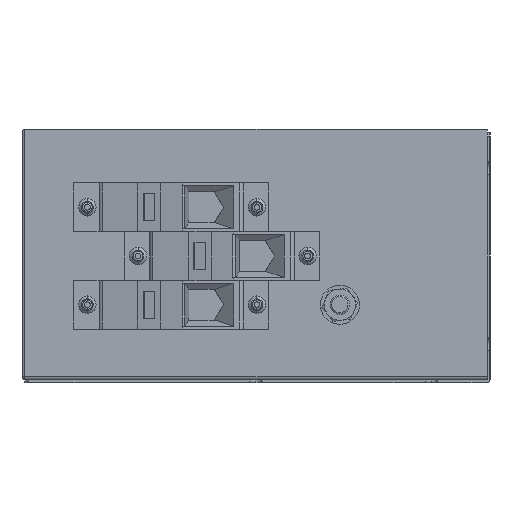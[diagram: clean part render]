
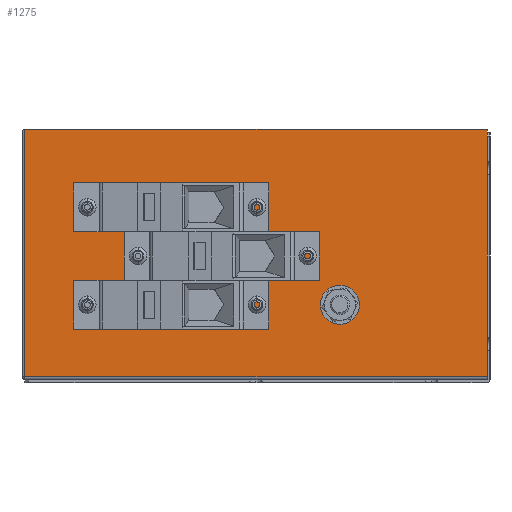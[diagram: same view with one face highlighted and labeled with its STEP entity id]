
A CAD part, left-side view. The second image highlights one B-rep face of the part: STEP entity #1275.
In plain terms, the highlighted planar face has unit normal (-1, 0, 0).
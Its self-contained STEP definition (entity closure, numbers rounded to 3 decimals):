
#146 = AXIS2_PLACEMENT_3D ( 'NONE', #1826, #7199, #9860 ) ;
#303 = ORIENTED_EDGE ( 'NONE', *, *, #2499, .T. ) ;
#311 = VERTEX_POINT ( 'NONE', #5593 ) ;
#633 = EDGE_CURVE ( 'NONE', #5802, #11120, #5743, .T. ) ;
#1041 = CARTESIAN_POINT ( 'NONE',  ( 19., 77., -88.5 ) ) ;
#1151 = CARTESIAN_POINT ( 'NONE',  ( 19., 180.5, -61.25 ) ) ;
#1193 = ORIENTED_EDGE ( 'NONE', *, *, #633, .T. ) ;
#1224 = FACE_BOUND ( 'NONE', #3542, .T. ) ;
#1234 = VECTOR ( 'NONE', #2579, 1000. ) ;
#1249 = DIRECTION ( 'NONE',  ( 0., -1., 0. ) ) ;
#1275 = ADVANCED_FACE ( 'NONE', ( #7831, #1224, #11468, #5450, #6021 ), #10774, .F. ) ;
#1365 = CARTESIAN_POINT ( 'NONE',  ( 19., 240., -125.5 ) ) ;
#1486 = LINE ( 'NONE', #1365, #6264 ) ;
#1513 = VERTEX_POINT ( 'NONE', #6058 ) ;
#1639 = CARTESIAN_POINT ( 'NONE',  ( 19., 206.5, -38.5 ) ) ;
#1795 = CARTESIAN_POINT ( 'NONE',  ( 19., 206.5, -36.25 ) ) ;
#1826 = CARTESIAN_POINT ( 'NONE',  ( 19., 180.5, -63.5 ) ) ;
#1995 = CARTESIAN_POINT ( 'NONE',  ( 19., 1.5, 1.5 ) ) ;
#2019 = CARTESIAN_POINT ( 'NONE',  ( 19., 206.5, -90.75 ) ) ;
#2193 = EDGE_CURVE ( 'NONE', #1513, #8739, #1486, .T. ) ;
#2241 = ORIENTED_EDGE ( 'NONE', *, *, #3141, .T. ) ;
#2439 = CIRCLE ( 'NONE', #5647, 2.25 ) ;
#2499 = EDGE_CURVE ( 'NONE', #11120, #5802, #4153, .T. ) ;
#2514 = ORIENTED_EDGE ( 'NONE', *, *, #4195, .T. ) ;
#2576 = DIRECTION ( 'NONE',  ( 1., 0., 0. ) ) ;
#2579 = DIRECTION ( 'NONE',  ( 0., 0., 1. ) ) ;
#2692 = CARTESIAN_POINT ( 'NONE',  ( 19., 206.5, -86.25 ) ) ;
#2724 = CARTESIAN_POINT ( 'NONE',  ( 19., 206.5, -88.5 ) ) ;
#2764 = AXIS2_PLACEMENT_3D ( 'NONE', #4896, #8444, #3047 ) ;
#3038 = CARTESIAN_POINT ( 'NONE',  ( 19., 77., -93.75 ) ) ;
#3047 = DIRECTION ( 'NONE',  ( 0., 0., -1. ) ) ;
#3141 = EDGE_CURVE ( 'NONE', #10778, #7141, #4215, .T. ) ;
#3368 = VERTEX_POINT ( 'NONE', #3976 ) ;
#3542 = EDGE_LOOP ( 'NONE', ( #5622, #6652 ) ) ;
#3546 = CARTESIAN_POINT ( 'NONE',  ( 19., 238.5, 1.5 ) ) ;
#3555 = VERTEX_POINT ( 'NONE', #4948 ) ;
#3663 = DIRECTION ( 'NONE',  ( 0., 0., -1. ) ) ;
#3884 = CIRCLE ( 'NONE', #9086, 2.25 ) ;
#3976 = CARTESIAN_POINT ( 'NONE',  ( 19., 1.5, 1.5 ) ) ;
#4153 = CIRCLE ( 'NONE', #7920, 2.25 ) ;
#4195 = EDGE_CURVE ( 'NONE', #3555, #3368, #6167, .T. ) ;
#4204 = CARTESIAN_POINT ( 'NONE',  ( 19., 77., -83.25 ) ) ;
#4215 = CIRCLE ( 'NONE', #4698, 5.25 ) ;
#4486 = DIRECTION ( 'NONE',  ( 0., 0., -1. ) ) ;
#4512 = EDGE_CURVE ( 'NONE', #11540, #3368, #8688, .T. ) ;
#4573 = DIRECTION ( 'NONE',  ( 0., 0., -1. ) ) ;
#4698 = AXIS2_PLACEMENT_3D ( 'NONE', #5273, #9861, #4486 ) ;
#4839 = CIRCLE ( 'NONE', #2764, 2.25 ) ;
#4896 = CARTESIAN_POINT ( 'NONE',  ( 19., 180.5, -63.5 ) ) ;
#4939 = VECTOR ( 'NONE', #4573, 1000. ) ;
#4948 = CARTESIAN_POINT ( 'NONE',  ( 19., 1.5, 0. ) ) ;
#5214 = CARTESIAN_POINT ( 'NONE',  ( 19., 206.5, -88.5 ) ) ;
#5273 = CARTESIAN_POINT ( 'NONE',  ( 19., 77., -88.5 ) ) ;
#5304 = ORIENTED_EDGE ( 'NONE', *, *, #7389, .T. ) ;
#5447 = CARTESIAN_POINT ( 'NONE',  ( 19., 206.5, -38.5 ) ) ;
#5448 = CARTESIAN_POINT ( 'NONE',  ( 19., 238.5, 1.5 ) ) ;
#5450 = FACE_BOUND ( 'NONE', #5824, .T. ) ;
#5540 = DIRECTION ( 'NONE',  ( 0., -1., 0. ) ) ;
#5593 = CARTESIAN_POINT ( 'NONE',  ( 19., 206.5, -40.75 ) ) ;
#5622 = ORIENTED_EDGE ( 'NONE', *, *, #6616, .T. ) ;
#5647 = AXIS2_PLACEMENT_3D ( 'NONE', #1639, #2576, #9645 ) ;
#5649 = EDGE_CURVE ( 'NONE', #311, #7622, #3884, .T. ) ;
#5652 = EDGE_CURVE ( 'NONE', #7141, #10778, #10772, .T. ) ;
#5743 = CIRCLE ( 'NONE', #6179, 2.25 ) ;
#5802 = VERTEX_POINT ( 'NONE', #2019 ) ;
#5822 = EDGE_LOOP ( 'NONE', ( #11001, #2241 ) ) ;
#5824 = EDGE_LOOP ( 'NONE', ( #1193, #303 ) ) ;
#6021 = FACE_OUTER_BOUND ( 'NONE', #10527, .T. ) ;
#6058 = CARTESIAN_POINT ( 'NONE',  ( 19., 238.5, -125.5 ) ) ;
#6167 = LINE ( 'NONE', #9728, #1234 ) ;
#6179 = AXIS2_PLACEMENT_3D ( 'NONE', #5214, #10553, #9688 ) ;
#6264 = VECTOR ( 'NONE', #1249, 1000. ) ;
#6290 = VECTOR ( 'NONE', #5540, 1000. ) ;
#6596 = EDGE_LOOP ( 'NONE', ( #10872, #5304 ) ) ;
#6616 = EDGE_CURVE ( 'NONE', #9341, #9066, #4839, .T. ) ;
#6652 = ORIENTED_EDGE ( 'NONE', *, *, #9484, .T. ) ;
#6738 = CARTESIAN_POINT ( 'NONE',  ( 19., 1.5, -125.5 ) ) ;
#6940 = VECTOR ( 'NONE', #9300, 1000. ) ;
#7079 = ORIENTED_EDGE ( 'NONE', *, *, #2193, .T. ) ;
#7141 = VERTEX_POINT ( 'NONE', #3038 ) ;
#7163 = CARTESIAN_POINT ( 'NONE',  ( 19., 240., 1.5 ) ) ;
#7173 = DIRECTION ( 'NONE',  ( 1., 0., 0. ) ) ;
#7199 = DIRECTION ( 'NONE',  ( 1., 0., 0. ) ) ;
#7389 = EDGE_CURVE ( 'NONE', #7622, #311, #2439, .T. ) ;
#7439 = ORIENTED_EDGE ( 'NONE', *, *, #9010, .T. ) ;
#7622 = VERTEX_POINT ( 'NONE', #1795 ) ;
#7831 = FACE_BOUND ( 'NONE', #5822, .T. ) ;
#7920 = AXIS2_PLACEMENT_3D ( 'NONE', #2724, #7173, #8189 ) ;
#8138 = DIRECTION ( 'NONE',  ( 1., 0., 0. ) ) ;
#8189 = DIRECTION ( 'NONE',  ( 0., 0., -1. ) ) ;
#8314 = CIRCLE ( 'NONE', #146, 2.25 ) ;
#8444 = DIRECTION ( 'NONE',  ( 1., 0., 0. ) ) ;
#8497 = AXIS2_PLACEMENT_3D ( 'NONE', #1041, #8138, #3663 ) ;
#8688 = LINE ( 'NONE', #9993, #6290 ) ;
#8739 = VERTEX_POINT ( 'NONE', #6738 ) ;
#8754 = LINE ( 'NONE', #5448, #4939 ) ;
#8760 = ORIENTED_EDGE ( 'NONE', *, *, #4512, .F. ) ;
#9010 = EDGE_CURVE ( 'NONE', #11540, #1513, #8754, .T. ) ;
#9050 = DIRECTION ( 'NONE',  ( 0., 0., -1. ) ) ;
#9066 = VERTEX_POINT ( 'NONE', #1151 ) ;
#9086 = AXIS2_PLACEMENT_3D ( 'NONE', #5447, #10927, #9050 ) ;
#9271 = AXIS2_PLACEMENT_3D ( 'NONE', #7163, #9714, #11509 ) ;
#9300 = DIRECTION ( 'NONE',  ( 0., 0., 1. ) ) ;
#9322 = CARTESIAN_POINT ( 'NONE',  ( 19., 180.5, -65.75 ) ) ;
#9341 = VERTEX_POINT ( 'NONE', #9322 ) ;
#9484 = EDGE_CURVE ( 'NONE', #9066, #9341, #8314, .T. ) ;
#9645 = DIRECTION ( 'NONE',  ( 0., 0., -1. ) ) ;
#9688 = DIRECTION ( 'NONE',  ( 0., 0., -1. ) ) ;
#9714 = DIRECTION ( 'NONE',  ( 1., 0., 0. ) ) ;
#9728 = CARTESIAN_POINT ( 'NONE',  ( 19., 1.5, 1.5 ) ) ;
#9860 = DIRECTION ( 'NONE',  ( 0., 0., -1. ) ) ;
#9861 = DIRECTION ( 'NONE',  ( 1., 0., 0. ) ) ;
#9993 = CARTESIAN_POINT ( 'NONE',  ( 19., 240., 1.5 ) ) ;
#10381 = ORIENTED_EDGE ( 'NONE', *, *, #10397, .T. ) ;
#10397 = EDGE_CURVE ( 'NONE', #8739, #3555, #10863, .T. ) ;
#10527 = EDGE_LOOP ( 'NONE', ( #8760, #7439, #7079, #10381, #2514 ) ) ;
#10553 = DIRECTION ( 'NONE',  ( 1., 0., 0. ) ) ;
#10772 = CIRCLE ( 'NONE', #8497, 5.25 ) ;
#10774 = PLANE ( 'NONE',  #9271 ) ;
#10778 = VERTEX_POINT ( 'NONE', #4204 ) ;
#10863 = LINE ( 'NONE', #1995, #6940 ) ;
#10872 = ORIENTED_EDGE ( 'NONE', *, *, #5649, .T. ) ;
#10927 = DIRECTION ( 'NONE',  ( 1., 0., 0. ) ) ;
#11001 = ORIENTED_EDGE ( 'NONE', *, *, #5652, .T. ) ;
#11120 = VERTEX_POINT ( 'NONE', #2692 ) ;
#11468 = FACE_BOUND ( 'NONE', #6596, .T. ) ;
#11509 = DIRECTION ( 'NONE',  ( 0., 0., -1. ) ) ;
#11540 = VERTEX_POINT ( 'NONE', #3546 ) ;
